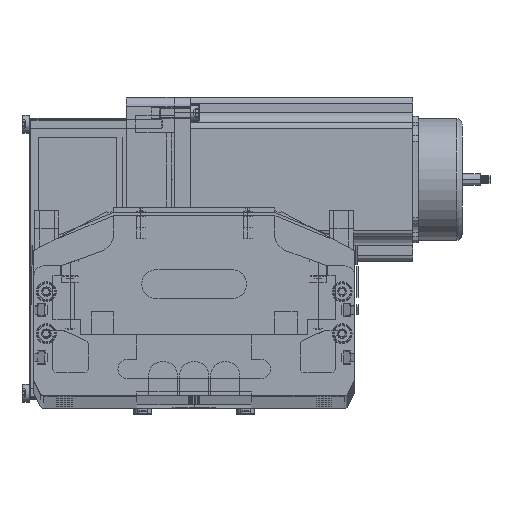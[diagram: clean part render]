
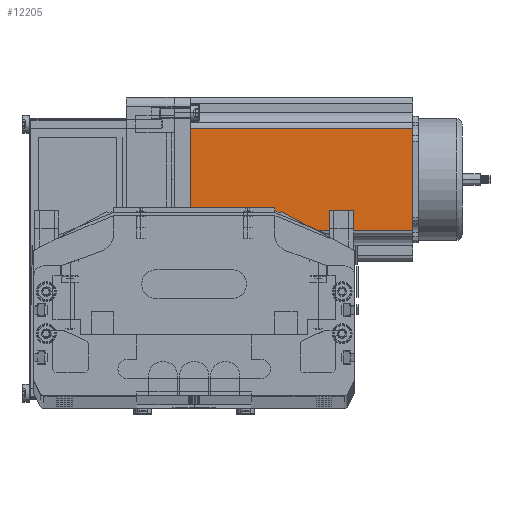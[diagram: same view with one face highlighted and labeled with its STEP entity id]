
A CAD part, top view. The second image highlights one B-rep face of the part: STEP entity #12205.
In plain terms, the highlighted planar face has unit normal (0, 0, 1) as drawn and (0, -1, 0) by its records, which use the part's own axes.
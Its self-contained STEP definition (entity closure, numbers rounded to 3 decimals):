
#6235 = CARTESIAN_POINT ( 'NONE',  ( 16.16, 0., 0. ) ) ;
#6488 = PLANE ( 'NONE',  #6518 ) ;
#6490 = CARTESIAN_POINT ( 'NONE',  ( 0., 0., 116.5 ) ) ;
#6518 = AXIS2_PLACEMENT_3D ( 'NONE', #6490, #6664, #6663 ) ;
#6527 = FACE_OUTER_BOUND ( 'NONE', #12109, .T. ) ;
#6652 = DIRECTION ( 'NONE',  ( 1., 0., 0. ) ) ;
#6653 = VECTOR ( 'NONE', #6652, 1000. ) ;
#6655 = CARTESIAN_POINT ( 'NONE',  ( 0., 0., 0. ) ) ;
#6656 = LINE ( 'NONE', #6655, #6653 ) ;
#6663 = DIRECTION ( 'NONE',  ( 0., 0., 1. ) ) ;
#6664 = DIRECTION ( 'NONE',  ( 0., 1., 0. ) ) ;
#6688 = CARTESIAN_POINT ( 'NONE',  ( 69.74, 0., 0. ) ) ;
#12031 = VERTEX_POINT ( 'NONE', #6235 ) ;
#12090 = ORIENTED_EDGE ( 'NONE', *, *, #12216, .T. ) ;
#12109 = EDGE_LOOP ( 'NONE', ( #12090, #88505, #88465, #88462 ) ) ;
#12205 = ADVANCED_FACE ( 'NONE', ( #6527 ), #6488, .F. ) ;
#12216 = EDGE_CURVE ( 'NONE', #12031, #12247, #6656, .T. ) ;
#12247 = VERTEX_POINT ( 'NONE', #6688 ) ;
#40450 = LINE ( 'NONE', #40510, #40509 ) ;
#40453 = CARTESIAN_POINT ( 'NONE',  ( 69.74, 0., 116.5 ) ) ;
#40508 = DIRECTION ( 'NONE',  ( 0., 0., 1. ) ) ;
#40509 = VECTOR ( 'NONE', #40508, 1000. ) ;
#40510 = CARTESIAN_POINT ( 'NONE',  ( 69.74, 0., 116.5 ) ) ;
#40511 = CARTESIAN_POINT ( 'NONE',  ( 16.16, 0., 116.5 ) ) ;
#40558 = LINE ( 'NONE', #40626, #40625 ) ;
#40624 = DIRECTION ( 'NONE',  ( 1., 0., 0. ) ) ;
#40625 = VECTOR ( 'NONE', #40624, 1000. ) ;
#40626 = CARTESIAN_POINT ( 'NONE',  ( 0., 0., 116.5 ) ) ;
#41388 = CARTESIAN_POINT ( 'NONE',  ( 16.16, 0., 116.5 ) ) ;
#41389 = LINE ( 'NONE', #41388, #41439 ) ;
#41438 = DIRECTION ( 'NONE',  ( 0., 0., -1. ) ) ;
#41439 = VECTOR ( 'NONE', #41438, 1000. ) ;
#87869 = EDGE_CURVE ( 'NONE', #12247, #87872, #40450, .T. ) ;
#87870 = VERTEX_POINT ( 'NONE', #40511 ) ;
#87872 = VERTEX_POINT ( 'NONE', #40453 ) ;
#87927 = EDGE_CURVE ( 'NONE', #87870, #87872, #40558, .T. ) ;
#88462 = ORIENTED_EDGE ( 'NONE', *, *, #88466, .T. ) ;
#88465 = ORIENTED_EDGE ( 'NONE', *, *, #87927, .F. ) ;
#88466 = EDGE_CURVE ( 'NONE', #87870, #12031, #41389, .T. ) ;
#88505 = ORIENTED_EDGE ( 'NONE', *, *, #87869, .T. ) ;
